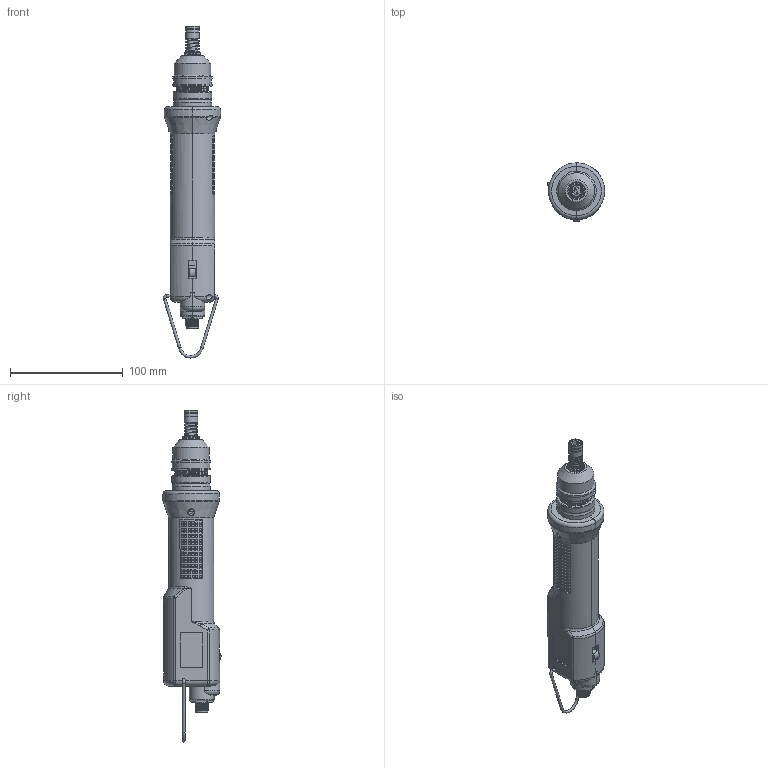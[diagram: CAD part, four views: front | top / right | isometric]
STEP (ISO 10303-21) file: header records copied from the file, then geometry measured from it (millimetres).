
FILE_DESCRIPTION (( 'STEP AP214' ), '1' );
FILE_NAME ('RAF32PS-FR.STEP', '2026-06-09T14:47:20', ( '' ), ( '' ), 'SwSTEP 2.0', 'SolidWorks 2026', '' );
FILE_SCHEMA (( 'AUTOMOTIVE_DESIGN' ));
Length unit declared in the file: millimetre
Products named in the file (1): RAF32PS-FR
Bounding box: 50.89 x 51.54 x 294.63 mm (x, y, z)
Surface area: 46700.6 mm2 (no closed solid volume)
Topology: 0 solids, 44 shells, 1370 faces, 3687 edges, 2493 vertices
Faces by surface type: plane 894, cylinder 324, bspline 83, torus 34, cone 27, sphere 8
Full cylindrical faces by diameter (mm): 1 x7, 2.2 x3, 2.5 x1, 2.8 x1, 4 x4, 5.5 x2, 6 x2, 8.3 x1, 9.4 x1, 9.5 x1, 9.75 x2, 10.8 x1, 11.75 x1, 11.8 x2, 12 x4, 14 x1, 14.95 x2, 15 x1, 19.7 x1, 32.2 x1, 33.3 x1, 33.9 x1, 34 x1, 35 x2
Entity records: 105864 total; most frequent: CARTESIAN_POINT 57727, DIRECTION 6749, ORIENTED_EDGE 6538, EDGE_CURVE 3556, VERTEX_POINT 2455, AXIS2_PLACEMENT_3D 2403, LINE 1943, VECTOR 1943
